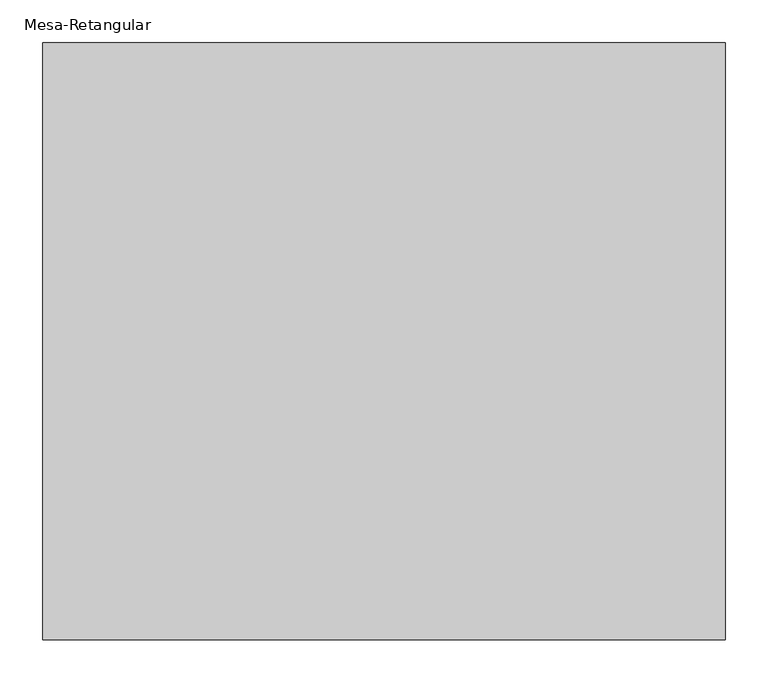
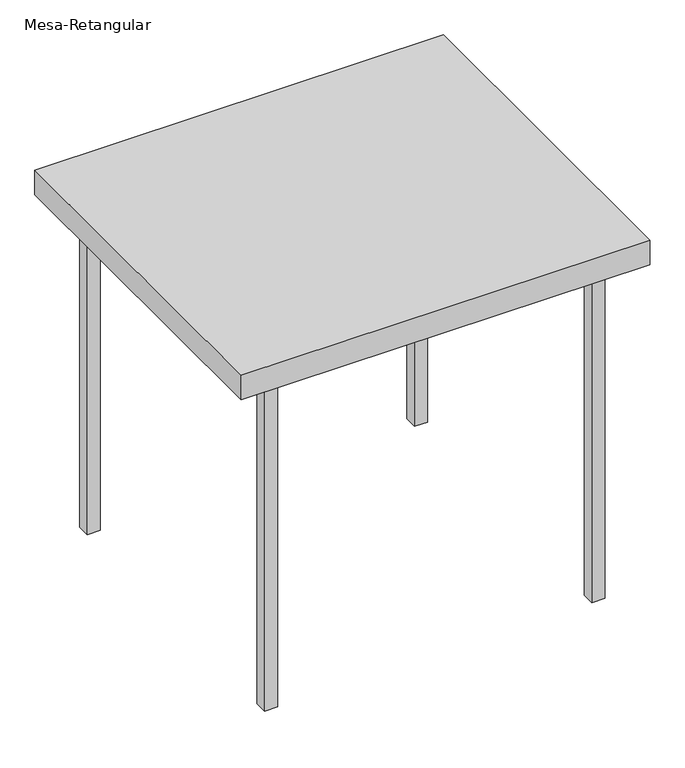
"""IFC4 building model written with IfcOpenShell, lengths in millimetres: furniture geometry, Mesa-Retangular : Mesa aço inox 70x80cm."""

from ifc_helpers import new_model, si_unit, frame, origin, origin_with_axes, place, context, project, spatial, polyline, outline, extrude, source, transform, mapped, element, save


def mesa_retangular_28f0691a(model_context):
    return source(origin(), model_context, "Body", "SweptSolid", [
        extrude(outline(polyline([(-332.8946305, 288.2145104), (-332.8946305, 313.6145104), (-307.4946305, 313.6145104), (-307.4946305, 288.2145104), (-332.8946305, 288.2145104)])), origin_with_axes(), (0.0, 0.0, 1.0), 689.2),
        extrude(outline(polyline([(-332.8946305, -288.2145104), (-307.4946305, -288.2145104), (-307.4946305, -313.6145104), (-332.8946305, -313.6145104), (-332.8946305, -288.2145104)])), origin_with_axes(), (0.0, 0.0, 1.0), 689.2),
        extrude(outline(polyline([(332.8946305, 288.2145104), (307.4946305, 288.2145104), (307.4946305, 313.6145104), (332.8946305, 313.6145104), (332.8946305, 288.2145104)])), origin_with_axes(), (0.0, 0.0, 1.0), 689.2),
        extrude(outline(polyline([(332.8946305, -288.2145104), (332.8946305, -313.6145104), (307.4946305, -313.6145104), (307.4946305, -288.2145104), (332.8946305, -288.2145104)])), origin_with_axes(), (0.0, 0.0, 1.0), 689.2),
        extrude(outline(polyline([(400.0, 350.0), (400.0, -350.0), (-400.0, -350.0), (-400.0, 350.0), (400.0, 350.0)])), frame((0.0, 0.0, 689.2), z_axis=(0.0, 0.0, 1.0), x_axis=(1.0, 0.0, 0.0)), (0.0, 0.0, 1.0), 50.8),
    ])


if __name__ == "__main__":
    model = new_model("IFC4")
    model_context = context("Model", 3, world=origin())
    ifc_project = project(units=[si_unit("LENGTHUNIT", "METRE", prefix="MILLI")], contexts=[model_context])
    site = spatial("IfcSite", under=ifc_project)
    building = spatial("IfcBuilding", under=site)
    placement = place(None, origin())
    mesa_retangular_shape = mesa_retangular_28f0691a(model_context)
    element("IfcFurniture", 1, ObjectType="Mesa-Retangular : Mesa aço inox 70x80cm", at=placement, inside=building, context=model_context, shape_type="MappedRepresentation", body=[
        mapped(mesa_retangular_shape, transform((0.0, 0.0, 0.0), x_axis=(1.0, 0.0, 0.0), y_axis=(0.0, 1.0, 0.0), z_axis=(0.0, 0.0, 1.0))),
    ])
    save(model, "model.ifc")
